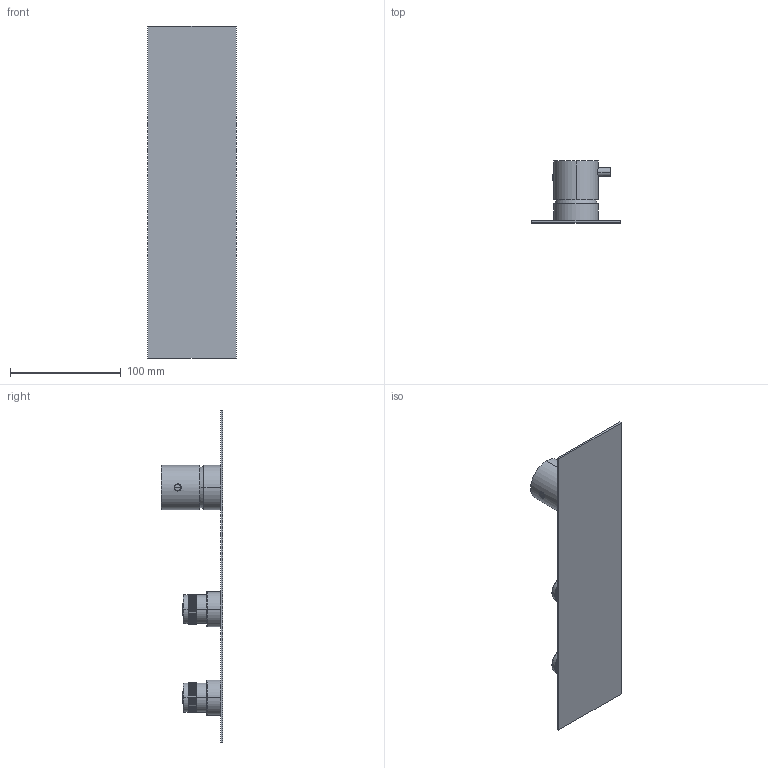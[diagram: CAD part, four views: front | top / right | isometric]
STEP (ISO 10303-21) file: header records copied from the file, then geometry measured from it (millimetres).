
FILE_DESCRIPTION((''),'2;1');
FILE_NAME('69000V221_SW0001','2025-11-25T14:57:38',('carloff'),(''),'CREO PARAMETRIC BY PTC INC, 2022014','CREO PARAMETRIC BY PTC INC, 2022014','');
FILE_SCHEMA(('CONFIG_CONTROL_DESIGN'));
Products named in the file (1): 69000V221_SW0001
Bounding box: 80 x 55.7 x 300 mm (x, y, z)
Volume: 158679.3 mm3; surface area: 63551.1 mm2
Topology: 1 solids, 1 shells, 3312 faces, 8250 edges, 5451 vertices
Faces by surface type: bspline 2562, cylinder 706, plane 22, torus 14, sphere 6, cone 2
Entity records: 140434 total; most frequent: CARTESIAN_POINT 79005, ORIENTED_EDGE 16488, EDGE_CURVE 8244, VERTEX_POINT 5451, B_SPLINE_CURVE_WITH_KNOTS 5196, DIRECTION 4874, EDGE_LOOP 3831, FACE_OUTER_BOUND 3312
